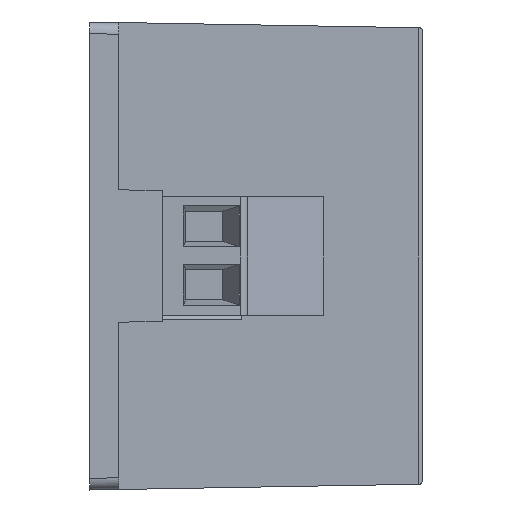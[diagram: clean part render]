
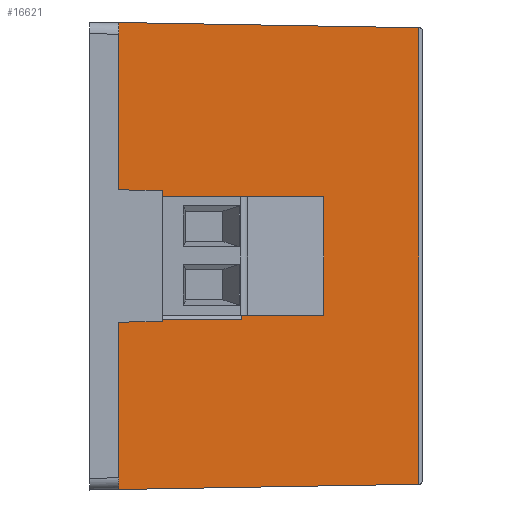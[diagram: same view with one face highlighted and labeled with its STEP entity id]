
A CAD part, left-side view. The second image highlights one B-rep face of the part: STEP entity #16621.
In plain terms, the highlighted planar face has unit normal (-1, -0.018, 0).
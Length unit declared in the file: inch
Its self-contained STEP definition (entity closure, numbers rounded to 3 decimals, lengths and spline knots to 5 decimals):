
#145 = AXIS2_PLACEMENT_3D ( 'NONE', #2224, #17306, #4402 ) ;
#367 = LINE ( 'NONE', #12513, #16874 ) ;
#378 = LINE ( 'NONE', #26077, #21881 ) ;
#715 = VECTOR ( 'NONE', #12809, 39.37008 ) ;
#757 = VERTEX_POINT ( 'NONE', #13927 ) ;
#1763 = VERTEX_POINT ( 'NONE', #17630 ) ;
#2224 = CARTESIAN_POINT ( 'NONE',  ( -1.78543, 0., -0.7874 ) ) ;
#3034 = EDGE_LOOP ( 'NONE', ( #4461, #25568, #3876, #23042, #5196, #25961, #5254, #6258 ) ) ;
#3059 = CARTESIAN_POINT ( 'NONE',  ( -1.78372, -0.09843, -0.7874 ) ) ;
#3876 = ORIENTED_EDGE ( 'NONE', *, *, #13290, .T. ) ;
#4038 = CARTESIAN_POINT ( 'NONE',  ( -1.76608, -1.10847, 0.76805 ) ) ;
#4218 = LINE ( 'NONE', #3059, #20025 ) ;
#4402 = DIRECTION ( 'NONE',  ( 0.017, -1., 0. ) ) ;
#4461 = ORIENTED_EDGE ( 'NONE', *, *, #24236, .T. ) ;
#4664 = VERTEX_POINT ( 'NONE', #23317 ) ;
#4800 = EDGE_CURVE ( 'NONE', #757, #22013, #27576, .T. ) ;
#5128 = VERTEX_POINT ( 'NONE', #6814 ) ;
#5196 = ORIENTED_EDGE ( 'NONE', *, *, #4800, .T. ) ;
#5254 = ORIENTED_EDGE ( 'NONE', *, *, #23091, .T. ) ;
#5742 = LINE ( 'NONE', #8710, #11496 ) ;
#6181 = CARTESIAN_POINT ( 'NONE',  ( -1.78372, -0.09843, -0.7874 ) ) ;
#6258 = ORIENTED_EDGE ( 'NONE', *, *, #19519, .F. ) ;
#6401 = CARTESIAN_POINT ( 'NONE',  ( -1.78372, -0.09843, -0.22269 ) ) ;
#6490 = LINE ( 'NONE', #21346, #22949 ) ;
#6560 = VERTEX_POINT ( 'NONE', #4038 ) ;
#6814 = CARTESIAN_POINT ( 'NONE',  ( -1.78372, -0.09843, 0.22269 ) ) ;
#8710 = CARTESIAN_POINT ( 'NONE',  ( -1.76608, -1.10847, -0.7874 ) ) ;
#9212 = LINE ( 'NONE', #6181, #25610 ) ;
#9713 = FACE_OUTER_BOUND ( 'NONE', #3034, .T. ) ;
#10691 = DIRECTION ( 'NONE',  ( 0.017, -1., 0.017 ) ) ;
#11095 = DIRECTION ( 'NONE',  ( -0.017, 1., 0.017 ) ) ;
#11496 = VECTOR ( 'NONE', #21530, 39.37008 ) ;
#12513 = CARTESIAN_POINT ( 'NONE',  ( -1.78372, -0.09843, 0.22269 ) ) ;
#12809 = DIRECTION ( 'NONE',  ( 0., 0., -1. ) ) ;
#13290 = EDGE_CURVE ( 'NONE', #5128, #1763, #367, .T. ) ;
#13927 = CARTESIAN_POINT ( 'NONE',  ( -1.78117, -0.24409, -0.22015 ) ) ;
#14218 = CARTESIAN_POINT ( 'NONE',  ( -1.78372, -0.09843, -0.78568 ) ) ;
#15697 = EDGE_CURVE ( 'NONE', #22013, #27277, #9212, .T. ) ;
#16621 = ADVANCED_FACE ( 'NONE', ( #9713 ), #19320, .T. ) ;
#16874 = VECTOR ( 'NONE', #21037, 39.37008 ) ;
#17179 = CARTESIAN_POINT ( 'NONE',  ( -1.78117, -0.24409, -0.7874 ) ) ;
#17306 = DIRECTION ( 'NONE',  ( -1., -0.017, 0. ) ) ;
#17456 = EDGE_CURVE ( 'NONE', #4664, #5128, #4218, .T. ) ;
#17630 = CARTESIAN_POINT ( 'NONE',  ( -1.78117, -0.24409, 0.22015 ) ) ;
#19072 = DIRECTION ( 'NONE',  ( 0., 0., -1. ) ) ;
#19320 = PLANE ( 'NONE',  #145 ) ;
#19386 = CARTESIAN_POINT ( 'NONE',  ( -1.78117, -0.24409, -0.22015 ) ) ;
#19519 = EDGE_CURVE ( 'NONE', #6560, #24677, #5742, .T. ) ;
#20025 = VECTOR ( 'NONE', #20217, 39.37008 ) ;
#20217 = DIRECTION ( 'NONE',  ( 0., 0., -1. ) ) ;
#21037 = DIRECTION ( 'NONE',  ( 0.017, -1., -0.017 ) ) ;
#21346 = CARTESIAN_POINT ( 'NONE',  ( -1.78372, -0.09843, -0.78568 ) ) ;
#21530 = DIRECTION ( 'NONE',  ( 0., 0., -1. ) ) ;
#21875 = VECTOR ( 'NONE', #25834, 39.37008 ) ;
#21881 = VECTOR ( 'NONE', #11095, 39.37008 ) ;
#22013 = VERTEX_POINT ( 'NONE', #6401 ) ;
#22949 = VECTOR ( 'NONE', #10691, 39.37008 ) ;
#23042 = ORIENTED_EDGE ( 'NONE', *, *, #26915, .T. ) ;
#23091 = EDGE_CURVE ( 'NONE', #27277, #24677, #6490, .T. ) ;
#23245 = CARTESIAN_POINT ( 'NONE',  ( -1.76608, -1.10847, -0.76805 ) ) ;
#23317 = CARTESIAN_POINT ( 'NONE',  ( -1.78372, -0.09843, 0.78568 ) ) ;
#24236 = EDGE_CURVE ( 'NONE', #6560, #4664, #378, .T. ) ;
#24243 = LINE ( 'NONE', #17179, #715 ) ;
#24677 = VERTEX_POINT ( 'NONE', #23245 ) ;
#25568 = ORIENTED_EDGE ( 'NONE', *, *, #17456, .T. ) ;
#25610 = VECTOR ( 'NONE', #19072, 39.37008 ) ;
#25834 = DIRECTION ( 'NONE',  ( -0.017, 1., -0.017 ) ) ;
#25961 = ORIENTED_EDGE ( 'NONE', *, *, #15697, .T. ) ;
#26077 = CARTESIAN_POINT ( 'NONE',  ( -1.76608, -1.10847, 0.76805 ) ) ;
#26915 = EDGE_CURVE ( 'NONE', #1763, #757, #24243, .T. ) ;
#27277 = VERTEX_POINT ( 'NONE', #14218 ) ;
#27576 = LINE ( 'NONE', #19386, #21875 ) ;
